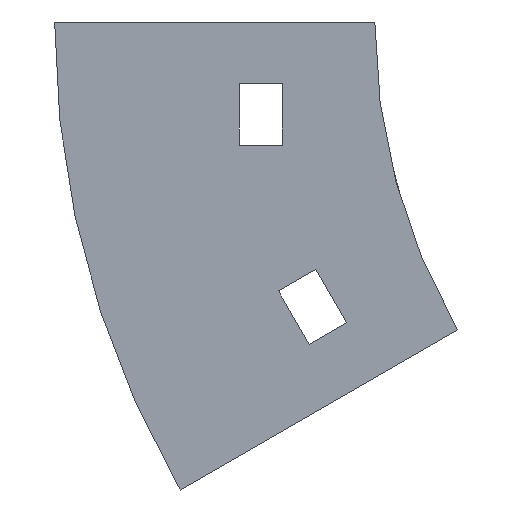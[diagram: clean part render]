
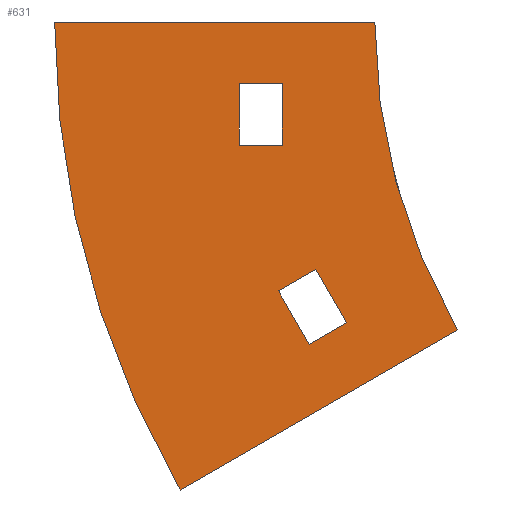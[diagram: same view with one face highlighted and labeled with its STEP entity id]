
A CAD part, left-side view. The second image highlights one B-rep face of the part: STEP entity #631.
In plain terms, the highlighted planar face has unit normal (-1, 0, 0).
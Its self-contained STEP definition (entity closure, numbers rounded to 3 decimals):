
#12 = CARTESIAN_POINT ( 'NONE',  ( -27., 9.593, -40.179 ) ) ;
#25 = EDGE_CURVE ( 'NONE', #599, #509, #839, .T. ) ;
#47 = VERTEX_POINT ( 'NONE', #1107 ) ;
#62 = VERTEX_POINT ( 'NONE', #666 ) ;
#67 = EDGE_LOOP ( 'NONE', ( #584, #619, #143, #494 ) ) ;
#68 = DIRECTION ( 'NONE',  ( 0., 0., -1. ) ) ;
#77 = DIRECTION ( 'NONE',  ( 0., 0., 1. ) ) ;
#81 = CARTESIAN_POINT ( 'NONE',  ( -27., -100., 0. ) ) ;
#91 = CARTESIAN_POINT ( 'NONE',  ( -27., 4.593, -48.84 ) ) ;
#118 = AXIS2_PLACEMENT_3D ( 'NONE', #81, #446, #814 ) ;
#128 = VERTEX_POINT ( 'NONE', #151 ) ;
#143 = ORIENTED_EDGE ( 'NONE', *, *, #752, .F. ) ;
#151 = CARTESIAN_POINT ( 'NONE',  ( -27., 22., -10. ) ) ;
#153 = ORIENTED_EDGE ( 'NONE', *, *, #216, .F. ) ;
#154 = CARTESIAN_POINT ( 'NONE',  ( -27., 15.655, -43.679 ) ) ;
#169 = FACE_BOUND ( 'NONE', #485, .T. ) ;
#184 = PLANE ( 'NONE',  #523 ) ;
#192 = VECTOR ( 'NONE', #408, 1000. ) ;
#205 = DIRECTION ( 'NONE',  ( 0., -1., 0. ) ) ;
#209 = CIRCLE ( 'NONE', #670, 152. ) ;
#216 = EDGE_CURVE ( 'NONE', #397, #727, #313, .T. ) ;
#245 = DIRECTION ( 'NONE',  ( 0., 0., 1. ) ) ;
#258 = CARTESIAN_POINT ( 'NONE',  ( -27., 22., -10. ) ) ;
#270 = CARTESIAN_POINT ( 'NONE',  ( -27., 0., 0. ) ) ;
#271 = CARTESIAN_POINT ( 'NONE',  ( -27., -100., 0. ) ) ;
#280 = VECTOR ( 'NONE', #1082, 1000. ) ;
#284 = CIRCLE ( 'NONE', #118, 100. ) ;
#295 = CARTESIAN_POINT ( 'NONE',  ( -27., 52., 0. ) ) ;
#313 = LINE ( 'NONE', #1028, #483 ) ;
#336 = ORIENTED_EDGE ( 'NONE', *, *, #1112, .F. ) ;
#356 = FACE_OUTER_BOUND ( 'NONE', #67, .T. ) ;
#359 = LINE ( 'NONE', #724, #634 ) ;
#369 = LINE ( 'NONE', #258, #577 ) ;
#383 = EDGE_CURVE ( 'NONE', #464, #397, #359, .T. ) ;
#397 = VERTEX_POINT ( 'NONE', #12 ) ;
#404 = LINE ( 'NONE', #601, #192 ) ;
#408 = DIRECTION ( 'NONE',  ( 0., 0.866, -0.5 ) ) ;
#420 = VERTEX_POINT ( 'NONE', #270 ) ;
#426 = DIRECTION ( 'NONE',  ( 0., -0.866, 0.5 ) ) ;
#446 = DIRECTION ( 'NONE',  ( -1., 0., 0. ) ) ;
#457 = LINE ( 'NONE', #1085, #1150 ) ;
#464 = VERTEX_POINT ( 'NONE', #91 ) ;
#473 = EDGE_CURVE ( 'NONE', #727, #47, #457, .T. ) ;
#483 = VECTOR ( 'NONE', #714, 1000. ) ;
#485 = EDGE_LOOP ( 'NONE', ( #897, #1030, #765, #1036 ) ) ;
#491 = CARTESIAN_POINT ( 'NONE',  ( -27., 22., -10. ) ) ;
#494 = ORIENTED_EDGE ( 'NONE', *, *, #755, .F. ) ;
#509 = VERTEX_POINT ( 'NONE', #907 ) ;
#523 = AXIS2_PLACEMENT_3D ( 'NONE', #271, #550, #77 ) ;
#533 = FACE_BOUND ( 'NONE', #859, .T. ) ;
#550 = DIRECTION ( 'NONE',  ( -1., 0., 0. ) ) ;
#566 = DIRECTION ( 'NONE',  ( 0., 0., 1. ) ) ;
#577 = VECTOR ( 'NONE', #730, 1000. ) ;
#584 = ORIENTED_EDGE ( 'NONE', *, *, #884, .F. ) ;
#597 = EDGE_CURVE ( 'NONE', #128, #62, #369, .T. ) ;
#599 = VERTEX_POINT ( 'NONE', #900 ) ;
#601 = CARTESIAN_POINT ( 'NONE',  ( -27., -13.397, -50. ) ) ;
#602 = VECTOR ( 'NONE', #566, 1000. ) ;
#612 = DIRECTION ( 'NONE',  ( 1., 0., 0. ) ) ;
#619 = ORIENTED_EDGE ( 'NONE', *, *, #902, .F. ) ;
#623 = CARTESIAN_POINT ( 'NONE',  ( -27., 31.636, -76. ) ) ;
#631 = ADVANCED_FACE ( 'NONE', ( #169, #356, #533 ), #184, .T. ) ;
#634 = VECTOR ( 'NONE', #656, 1000. ) ;
#656 = DIRECTION ( 'NONE',  ( 0., 0.5, 0.866 ) ) ;
#660 = DIRECTION ( 'NONE',  ( 0., -0.5, -0.866 ) ) ;
#666 = CARTESIAN_POINT ( 'NONE',  ( -27., 15., -10. ) ) ;
#670 = AXIS2_PLACEMENT_3D ( 'NONE', #700, #612, #245 ) ;
#700 = CARTESIAN_POINT ( 'NONE',  ( -27., -100., 0. ) ) ;
#714 = DIRECTION ( 'NONE',  ( 0., 0.866, -0.5 ) ) ;
#718 = LINE ( 'NONE', #968, #1117 ) ;
#724 = CARTESIAN_POINT ( 'NONE',  ( -27., 4.593, -48.84 ) ) ;
#727 = VERTEX_POINT ( 'NONE', #154 ) ;
#730 = DIRECTION ( 'NONE',  ( 0., -1., 0. ) ) ;
#737 = LINE ( 'NONE', #491, #602 ) ;
#752 = EDGE_CURVE ( 'NONE', #1023, #1083, #209, .T. ) ;
#755 = EDGE_CURVE ( 'NONE', #910, #1023, #404, .T. ) ;
#765 = ORIENTED_EDGE ( 'NONE', *, *, #25, .T. ) ;
#771 = EDGE_CURVE ( 'NONE', #62, #599, #876, .T. ) ;
#790 = CARTESIAN_POINT ( 'NONE',  ( -27., 15., -10. ) ) ;
#814 = DIRECTION ( 'NONE',  ( 0., 0., 1. ) ) ;
#839 = LINE ( 'NONE', #1010, #280 ) ;
#859 = EDGE_LOOP ( 'NONE', ( #915, #336, #1005, #153 ) ) ;
#860 = VECTOR ( 'NONE', #426, 1000. ) ;
#876 = LINE ( 'NONE', #790, #1134 ) ;
#884 = EDGE_CURVE ( 'NONE', #420, #910, #284, .T. ) ;
#897 = ORIENTED_EDGE ( 'NONE', *, *, #597, .T. ) ;
#900 = CARTESIAN_POINT ( 'NONE',  ( -27., 15., -20. ) ) ;
#902 = EDGE_CURVE ( 'NONE', #1083, #420, #718, .T. ) ;
#907 = CARTESIAN_POINT ( 'NONE',  ( -27., 22., -20. ) ) ;
#910 = VERTEX_POINT ( 'NONE', #920 ) ;
#915 = ORIENTED_EDGE ( 'NONE', *, *, #383, .F. ) ;
#918 = EDGE_CURVE ( 'NONE', #509, #128, #737, .T. ) ;
#920 = CARTESIAN_POINT ( 'NONE',  ( -27., -13.397, -50. ) ) ;
#960 = LINE ( 'NONE', #1057, #860 ) ;
#968 = CARTESIAN_POINT ( 'NONE',  ( -27., 52., 0. ) ) ;
#1005 = ORIENTED_EDGE ( 'NONE', *, *, #473, .F. ) ;
#1010 = CARTESIAN_POINT ( 'NONE',  ( -27., 22., -20. ) ) ;
#1023 = VERTEX_POINT ( 'NONE', #623 ) ;
#1028 = CARTESIAN_POINT ( 'NONE',  ( -27., 15.655, -43.679 ) ) ;
#1030 = ORIENTED_EDGE ( 'NONE', *, *, #771, .T. ) ;
#1036 = ORIENTED_EDGE ( 'NONE', *, *, #918, .T. ) ;
#1057 = CARTESIAN_POINT ( 'NONE',  ( -27., 10.655, -52.34 ) ) ;
#1082 = DIRECTION ( 'NONE',  ( 0., 1., 0. ) ) ;
#1083 = VERTEX_POINT ( 'NONE', #295 ) ;
#1085 = CARTESIAN_POINT ( 'NONE',  ( -27., 10.655, -52.34 ) ) ;
#1107 = CARTESIAN_POINT ( 'NONE',  ( -27., 10.655, -52.34 ) ) ;
#1112 = EDGE_CURVE ( 'NONE', #47, #464, #960, .T. ) ;
#1117 = VECTOR ( 'NONE', #205, 1000. ) ;
#1134 = VECTOR ( 'NONE', #68, 1000. ) ;
#1150 = VECTOR ( 'NONE', #660, 1000. ) ;
